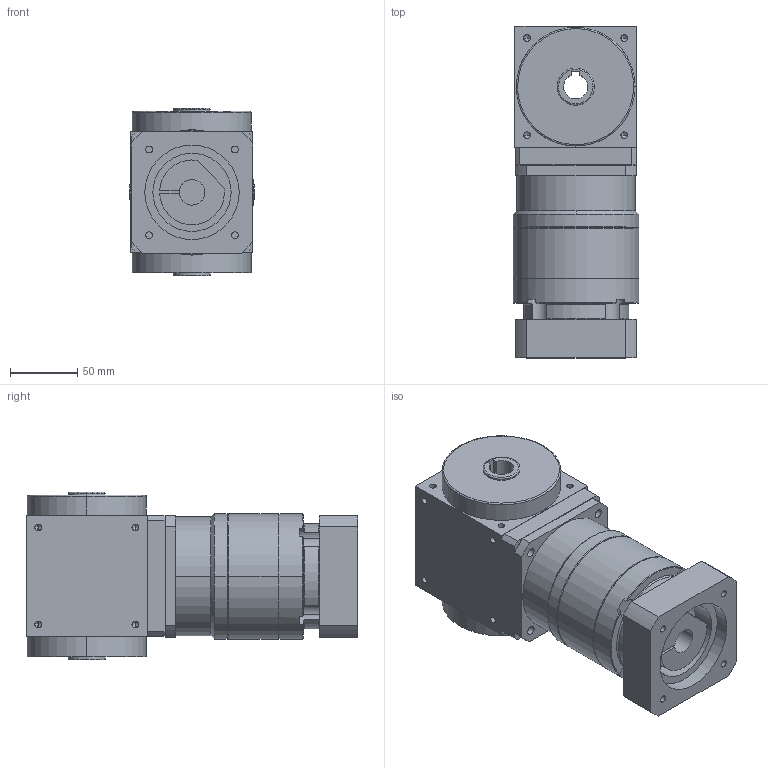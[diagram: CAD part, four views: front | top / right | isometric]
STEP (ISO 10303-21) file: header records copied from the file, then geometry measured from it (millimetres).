
FILE_DESCRIPTION (( 'STEP AP203' ), '1' );
FILE_NAME ('AT090-FH-L2 19-70-90-M6.STEP', '2024-12-19T07:08:41', ( '' ), ( '' ), 'SwSTEP 2.0', 'SolidWorks 2021', '' );
FILE_SCHEMA (( 'CONFIG_CONTROL_DESIGN' ));
Length unit declared in the file: millimetre
Products named in the file (3): AT090-FH; AT090-FH-L2 19-70-90-M6; VRB-090-L2-S2-P1 19-70-90-M6
Assembly tree (2 placements, depth 2):
  AT090-FH-L2 19-70-90-M6
    AT090-FH
    VRB-090-L2-S2-P1 19-70-90-M6
Bounding box: 93 x 246 x 124 mm (x, y, z)
Volume: 1943227.7 mm3; surface area: 156955.9 mm2
Topology: 2 solids, 2 shells, 318 faces, 833 edges, 494 vertices
Faces by surface type: cylinder 162, cone 85, plane 61, bspline 10
Entity records: 10193 total; most frequent: CARTESIAN_POINT 2469, ORIENTED_EDGE 1582, DIRECTION 1578, EDGE_CURVE 791, AXIS2_PLACEMENT_3D 631, VERTEX_POINT 494, EDGE_LOOP 369, FACE_OUTER_BOUND 318
